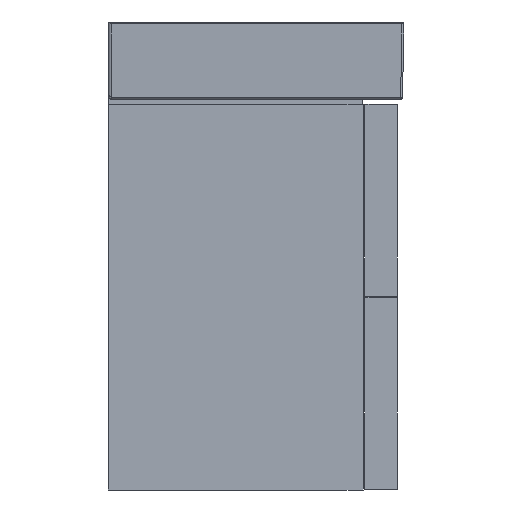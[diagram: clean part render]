
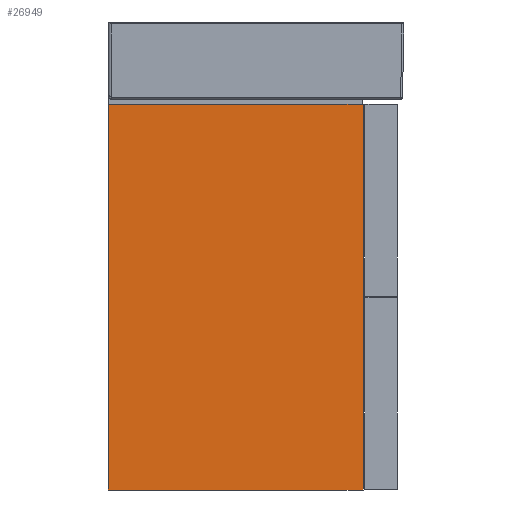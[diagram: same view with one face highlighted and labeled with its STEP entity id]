
A CAD part, left-side view. The second image highlights one B-rep face of the part: STEP entity #26949.
In plain terms, the highlighted planar face has unit normal (-1, 0, 0).
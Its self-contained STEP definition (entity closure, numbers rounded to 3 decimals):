
#2345=LINE('',#114204,#4987);
#2348=LINE('',#114210,#4990);
#2349=LINE('',#114212,#4991);
#2350=LINE('',#114213,#4992);
#4987=VECTOR('',#33956,1.);
#4990=VECTOR('',#33961,1.);
#4991=VECTOR('',#33962,1.);
#4992=VECTOR('',#33963,1.);
#7411=FACE_OUTER_BOUND('',#8815,.T.);
#8815=EDGE_LOOP('',(#20599,#20600,#20601,#20602));
#12672=VERTEX_POINT('',#114201);
#12673=VERTEX_POINT('',#114203);
#12675=VERTEX_POINT('',#114209);
#12676=VERTEX_POINT('',#114211);
#16135=EDGE_CURVE('',#12672,#12673,#2345,.T.);
#16138=EDGE_CURVE('',#12675,#12672,#2348,.T.);
#16139=EDGE_CURVE('',#12675,#12676,#2349,.T.);
#16140=EDGE_CURVE('',#12673,#12676,#2350,.T.);
#20599=ORIENTED_EDGE('',*,*,#16135,.F.);
#20600=ORIENTED_EDGE('',*,*,#16138,.F.);
#20601=ORIENTED_EDGE('',*,*,#16139,.T.);
#20602=ORIENTED_EDGE('',*,*,#16140,.F.);
#25819=PLANE('',#29934);
#26949=ADVANCED_FACE('',(#7411),#25819,.T.);
#29934=AXIS2_PLACEMENT_3D('',#114208,#33959,#33960);
#33956=DIRECTION('',(0.,0.,1.));
#33959=DIRECTION('center_axis',(-1.,0.,0.));
#33960=DIRECTION('ref_axis',(0.,-1.,0.));
#33961=DIRECTION('',(0.,1.,0.));
#33962=DIRECTION('',(0.,0.,1.));
#33963=DIRECTION('',(0.,-1.,0.));
#114201=CARTESIAN_POINT('',(-18353.61,-24122.745,-2426.086));
#114203=CARTESIAN_POINT('',(-18353.61,-24122.745,-1826.086));
#114204=CARTESIAN_POINT('',(-18353.61,-24122.745,-2526.086));
#114208=CARTESIAN_POINT('Origin',(-18353.61,-24085.245,-2526.086));
#114209=CARTESIAN_POINT('',(-18353.61,-24519.245,-2426.086));
#114210=CARTESIAN_POINT('',(-18353.61,-24193.745,-2426.086));
#114211=CARTESIAN_POINT('',(-18353.61,-24519.245,-1826.086));
#114212=CARTESIAN_POINT('',(-18353.61,-24519.245,-2526.086));
#114213=CARTESIAN_POINT('',(-18353.61,-24085.245,-1826.086));
